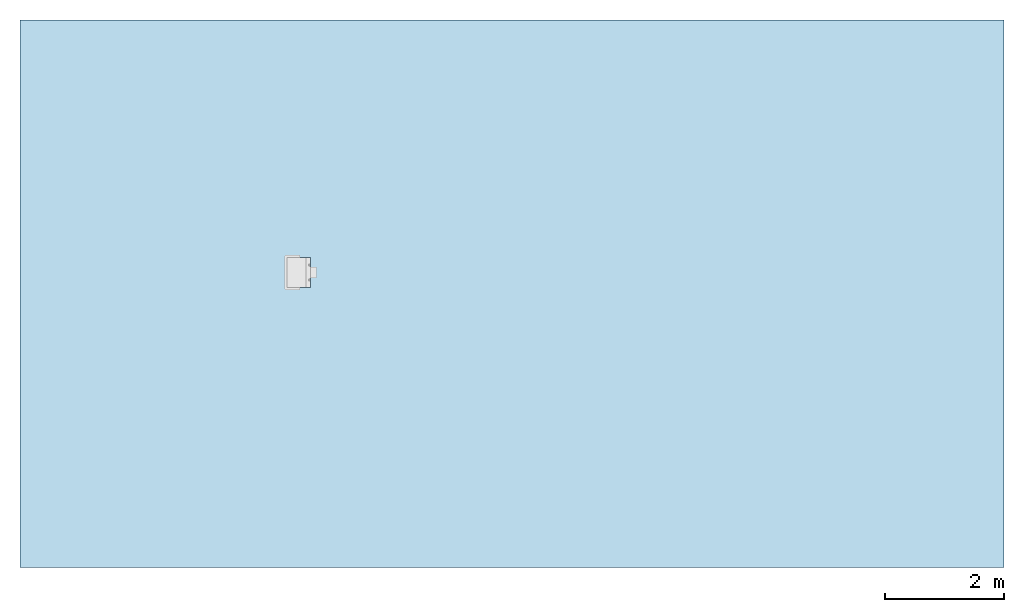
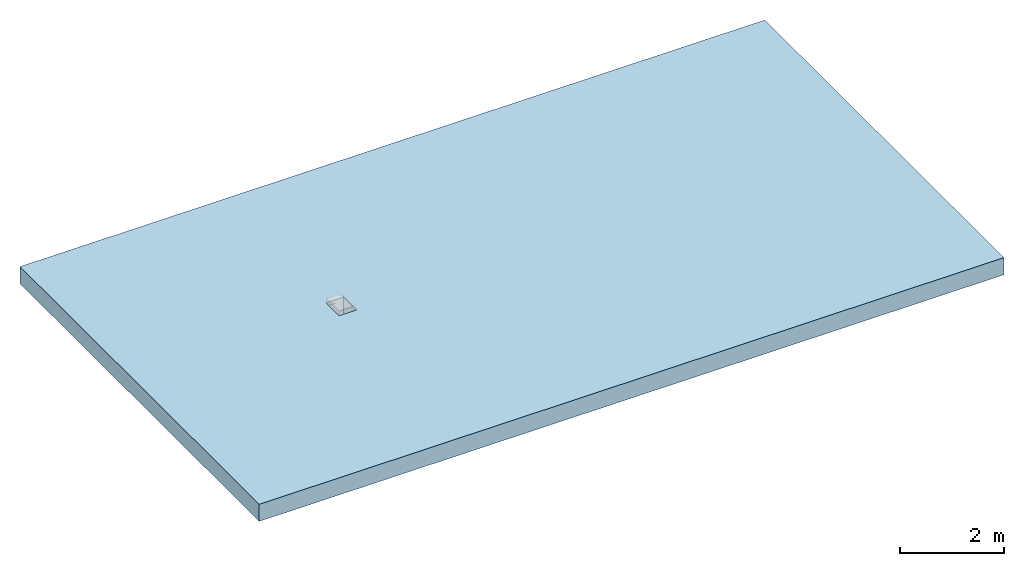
# One storey, incomplete: 1 slab, 3 openings.
"""IFC2X3 building model written with IfcOpenShell, lengths in millimetres."""

from ifc_helpers import new_model, entity, si_unit, converted_unit, direction, frame, frame_2d, origin, origin_2d_with_axis, place, context, subcontext, project, spatial, polyline, circle_curve, parameter, trimmed, segment, composite_curve, rectangle, outline, extrude, faceted_brep, material, layer, layer_set, layer_usage, element, save


model = new_model("IFC2X3")

# Units and contexts
model_context = context("Model", 3, precision=1e-06, world=origin(), true_north=direction((2.0, 6.12303176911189e-17, 1.0)))
context_of_model = context(None, 3, precision=1e-06, world=origin(), true_north=direction((2.0, 6.12303176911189e-17, 1.0)))
body_context = subcontext(model_context, "Body", "Model", "MODEL_VIEW")
ifc_project = project(units=[si_unit("LENGTHUNIT", "METRE", prefix="MILLI"), si_unit("AREAUNIT", "SQUARE_METRE", prefix="MILLI"), si_unit("VOLUMEUNIT", "CUBIC_METRE", prefix="MILLI"), converted_unit("PLANEANGLEUNIT", "DEGREE", entity("IfcRatioMeasure", 0.0174532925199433), si_unit("PLANEANGLEUNIT", "RADIAN"), dimensions=[0, 0, 0, 0, 0, 0, 0]), si_unit("TIMEUNIT", "SECOND")], contexts=[model_context, context_of_model])

# Site, building, storey
site_placement = place(None, origin())
site = spatial("IfcSite", under=ifc_project, at=site_placement, Name="Default", CompositionType="ELEMENT")
building_placement = place(site_placement, origin())
building = spatial("IfcBuilding", under=site, at=building_placement, CompositionType="ELEMENT")
storey_placement = place(building_placement, origin())
storey = spatial("IfcBuildingStorey", under=building, at=storey_placement, Name="Level 1", CompositionType="ELEMENT", Elevation=0.0)

# Slab, openings
ifc_material = material(Name="Plant")
ifc_layer = layer(ifc_material, 400.0)
ifc_layer_set = layer_set([ifc_layer], Name="Floor:Generic Floor - 400mm")
ifc_layer_usage = layer_usage(ifc_layer_set, "AXIS3", "POSITIVE", 0.0)
slab_placement = place(storey_placement, frame((-17967.0691536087, -3738.31688706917, -400.0)))
slab = element("IfcSlab", 1, at=slab_placement, inside=storey, material=ifc_layer_usage, Name="Floor:Generic Floor - 400mm", ObjectType="Floor:Generic Floor - 400mm", PredefinedType="FLOOR", context=body_context, shape_type="SweptSolid", body=[
    extrude(rectangle(XDim=9180.0, YDim=16500.0, at=frame_2d((0.0, 0.0), x_axis=(0.0, -1.0))), frame((8250.0, 4590.0, 400.0), z_axis=(0.0, 0.0, -1.0), x_axis=(-1.0, 0.0, 0.0)), (0.0, 0.0, 1.0), 400.0),
])
opening_1_placement = place(slab_placement, frame((4436.93678333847, 4654.21328994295, -525.0)))
element("IfcOpeningElement", 2, at=opening_1_placement, cuts=slab, ObjectType="Opening", context=body_context, shape_type="Brep", body=[
    faceted_brep([(43.5952722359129, 41.595272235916, 505.0), (76.6271800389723, 41.4818101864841, 505.0), (76.2747785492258, 541.48168599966, 505.0), (43.5952722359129, 541.595272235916, 505.0), (399.175345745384, 41.7091431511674, 505.0), (433.595272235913, 41.595272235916, 505.0), (433.595272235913, 541.595272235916, 505.0), (398.822944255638, 541.709018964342, 505.0), (43.5952722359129, 541.595272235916, 845.0), (43.5952722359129, 41.595272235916, 845.0), (43.5952722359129, 541.595272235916, 850.725125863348), (43.5952722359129, 541.595272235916, 925.0), (43.5952722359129, 41.595272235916, 925.0), (43.5952722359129, 41.595272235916, 850.725125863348), (76.6271800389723, 41.4818101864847, 0.0), (76.274778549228, 541.48168599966, 0.0), (398.82294425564, 541.709018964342, 0.0), (398.935792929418, 381.595272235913, 462.934645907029), (398.935792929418, 381.595272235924, 0.0), (399.175345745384, 41.7091431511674, 0.0), (399.062657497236, 201.595272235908, 462.934645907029), (399.062657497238, 201.595272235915, 0.0), (259.595261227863, 541.610890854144, 845.0), (259.595272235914, 541.610890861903, 850.725125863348), (433.595174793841, 541.733526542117, 925.0), (533.410259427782, 381.595272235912, 0.0), (533.410259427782, 201.595272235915, 0.0), (259.595261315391, 41.6107666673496, 850.725125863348), (259.595272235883, 41.6107666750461, 845.0), (433.59517488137, 41.7334023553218, 925.0), (533.410259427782, 201.595272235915, 462.934645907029), (533.410259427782, 381.595272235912, 462.934645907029), (2.27675571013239, 566.771653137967, 845.0), (1.59527223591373, 561.595272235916, 845.0), (21.5952722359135, 581.595272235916, 845.0), (7.45313661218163, 575.737407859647, 845.0), (4.27476416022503, 571.595272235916, 845.0), (1.59527223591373, 21.5952722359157, 845.0), (2.27675571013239, 16.4188913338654, 845.0), (4.27476416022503, 11.5952722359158, 845.0), (21.5952722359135, 1.5952722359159, 845.0), (11.5952722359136, 4.27476416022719, 845.0), (7.4531366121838, 7.45313661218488, 845.0), (11.5952722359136, 578.915780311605, 845.0), (259.595272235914, 581.595272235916, 845.0), (16.4188913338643, 2.27675571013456, 845.0), (259.595272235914, 1.59527223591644, 845.0), (16.4188913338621, 580.913788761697, 845.0), (259.595272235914, 581.595272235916, 850.725125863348), (21.5952722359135, 581.595272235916, 850.725125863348), (1.59527223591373, 561.595272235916, 850.725125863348), (1.59527223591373, 21.5952722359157, 850.725125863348), (259.595272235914, 1.59527223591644, 850.725125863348), (16.4188913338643, 2.27675571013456, 850.725125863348), (11.5952722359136, 4.27476416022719, 850.725125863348), (21.5952722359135, 1.5952722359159, 850.725125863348), (16.4188913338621, 580.913788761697, 850.725125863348), (11.5952722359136, 578.915780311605, 850.725125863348), (4.27476416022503, 571.595272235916, 850.725125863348), (7.45313661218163, 575.737407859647, 850.725125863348), (2.27675571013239, 566.771653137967, 850.725125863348), (7.4531366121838, 7.45313661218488, 850.725125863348), (4.27476416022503, 11.5952722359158, 850.725125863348), (2.27675571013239, 16.4188913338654, 850.725125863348)], [[[0, 1, 2]], [[2, 3, 0]], [[4, 5, 6]], [[6, 7, 4]], [[0, 8, 9]], [[8, 0, 3]], [[10, 11, 12]], [[12, 13, 10]], [[2, 1, 14]], [[14, 15, 2]], [[16, 17, 7]], [[4, 7, 17]], [[17, 16, 18]], [[19, 4, 20]], [[17, 20, 4]], [[20, 21, 19]], [[2, 22, 8]], [[8, 3, 2]], [[7, 2, 15]], [[23, 11, 10]], [[24, 23, 22]], [[11, 23, 24]], [[6, 24, 22]], [[22, 7, 6]], [[7, 15, 16]], [[22, 2, 7]], [[14, 18, 15]], [[16, 15, 18]], [[19, 21, 14]], [[18, 14, 21]], [[21, 25, 18]], [[25, 21, 26]], [[19, 14, 1]], [[9, 1, 0]], [[27, 13, 12]], [[1, 9, 28]], [[1, 28, 4]], [[28, 5, 4]], [[29, 28, 27]], [[5, 28, 29]], [[12, 29, 27]], [[19, 1, 4]], [[30, 31, 25]], [[25, 26, 30]], [[31, 20, 17]], [[20, 31, 30]], [[25, 17, 18]], [[17, 25, 31]], [[26, 21, 20]], [[20, 30, 26]], [[29, 12, 11]], [[11, 24, 29]], [[5, 29, 24]], [[24, 6, 5]], [[32, 33, 34]], [[35, 36, 34]], [[34, 36, 32]], [[33, 37, 8]], [[38, 39, 40]], [[41, 40, 42]], [[42, 40, 39]], [[37, 38, 40]], [[34, 43, 35]], [[33, 8, 34]], [[22, 44, 8]], [[34, 8, 44]], [[8, 37, 9]], [[40, 41, 45]], [[46, 28, 9]], [[40, 46, 9]], [[37, 40, 9]], [[34, 47, 43]], [[10, 48, 23]], [[49, 10, 50]], [[48, 10, 49]], [[10, 13, 51]], [[13, 27, 52]], [[53, 54, 55]], [[55, 51, 13]], [[52, 55, 13]], [[56, 49, 57]], [[49, 58, 59]], [[60, 49, 50]], [[60, 58, 49]], [[50, 10, 51]], [[61, 55, 54]], [[55, 61, 62]], [[62, 63, 55]], [[55, 63, 51]], [[57, 49, 59]], [[60, 50, 32]], [[58, 60, 36]], [[32, 50, 33]], [[60, 32, 36]], [[58, 36, 35]], [[35, 59, 58]], [[57, 59, 43]], [[56, 57, 47]], [[47, 57, 43]], [[56, 47, 34]], [[56, 34, 49]], [[35, 43, 59]], [[51, 37, 33]], [[33, 50, 51]], [[53, 55, 45]], [[54, 53, 41]], [[45, 55, 40]], [[53, 45, 41]], [[54, 41, 42]], [[42, 61, 54]], [[62, 61, 39]], [[63, 62, 38]], [[38, 62, 39]], [[63, 38, 37]], [[63, 37, 51]], [[42, 39, 61]], [[52, 46, 40]], [[40, 55, 52]], [[52, 28, 46]], [[28, 52, 27]], [[48, 44, 22]], [[22, 23, 48]], [[48, 34, 44]], [[34, 48, 49]]]),
])
opening_2_placement = place(slab_placement, frame((4436.93678333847, 4654.21328994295, -525.0)))
element("IfcOpeningElement", 3, at=opening_2_placement, cuts=slab, ObjectType="Opening", context=body_context, shape_type="SweptSolid", body=[
    extrude(outline(composite_curve([segment(trimmed(circle_curve(frame_2d((0.112460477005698, 0.0), x_axis=(1.0, 0.0)), 250.0), [parameter(129.825371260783)], [parameter(230.174628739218)], True, "PARAMETER"), True, "CONTINUOUS"), segment(polyline([(-160.0, -192.0), (-160.0, -250.0)]), True, "CONTINUOUS"), segment(polyline([(-160.0, -250.0), (0.0, -250.0)]), True, "CONTINUOUS"), segment(polyline([(0.0, -250.0), (160.0, -250.0)]), True, "CONTINUOUS"), segment(polyline([(160.0, -250.0), (160.0, -192.0)]), True, "CONTINUOUS"), segment(trimmed(circle_curve(frame_2d((-0.112460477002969, 0.0), x_axis=(1.0, 0.0)), 250.0), [parameter(309.825371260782)], [parameter(50.1746287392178)], True, "PARAMETER"), True, "CONTINUOUS"), segment(polyline([(160.0, 192.0), (160.0, 250.0)]), True, "CONTINUOUS"), segment(polyline([(160.0, 250.0), (0.0, 250.0)]), True, "CONTINUOUS"), segment(polyline([(0.0, 250.0), (-160.0, 250.0)]), True, "CONTINUOUS"), segment(polyline([(-160.0, 250.0), (-160.0, 192.0)]), True, "CONTINUOUS")], self_intersect=False)), frame((4675.53205557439, 4945.80856217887, -2010.0), z_axis=(0.0, 0.0, 1.0), x_axis=(-1.0, 0.0, 0.0)), (0.0, 0.0, 1.0), 4.99999999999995),
])
opening_3_placement = place(slab_placement, frame((4436.93678333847, 4654.21328994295, -525.0)))
element("IfcOpeningElement", 4, at=opening_3_placement, cuts=slab, ObjectType="Opening", context=body_context, shape_type="SweptSolid", body=[
    extrude(rectangle(XDim=500.0, YDim=321.248327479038, at=origin_2d_with_axis()), frame((4674.90789183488, 4947.10834398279, -5600.0), z_axis=(0.0, 0.0, 1.0), x_axis=(0.0, -1.0, 0.0)), (0.0, 0.0, 1.0), 364.999999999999),
])

save(model, "model.ifc")
